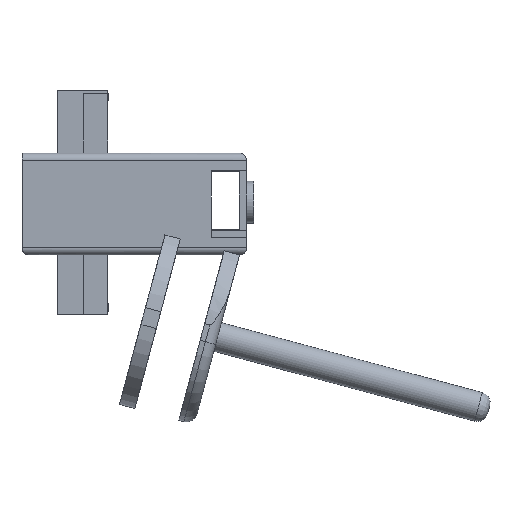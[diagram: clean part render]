
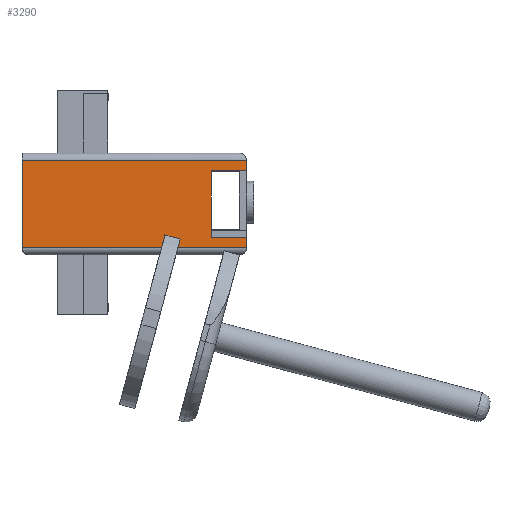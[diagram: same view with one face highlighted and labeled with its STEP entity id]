
A CAD part, left-side view. The second image highlights one B-rep face of the part: STEP entity #3290.
In plain terms, the highlighted planar face has unit normal (-1, 0, 0).
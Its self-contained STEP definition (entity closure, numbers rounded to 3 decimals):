
#325 = PLANE('',#326);
#326 = AXIS2_PLACEMENT_3D('',#327,#328,#329);
#327 = CARTESIAN_POINT('',(-44.284,10.,22.71));
#328 = DIRECTION('',(0.,0.,1.));
#329 = DIRECTION('',(1.,0.,-0.));
#695 = PLANE('',#696);
#696 = AXIS2_PLACEMENT_3D('',#697,#698,#699);
#697 = CARTESIAN_POINT('',(0.,0.,0.));
#698 = DIRECTION('',(0.,1.,0.));
#699 = DIRECTION('',(0.,-0.,1.));
#1296 = PLANE('',#1297);
#1297 = AXIS2_PLACEMENT_3D('',#1298,#1299,#1300);
#1298 = CARTESIAN_POINT('',(-44.284,10.,3.71));
#1299 = DIRECTION('',(0.,0.,-1.));
#1300 = DIRECTION('',(-1.,0.,0.));
#1344 = VERTEX_POINT('',#1345);
#1345 = CARTESIAN_POINT('',(-44.284,10.,3.71));
#1359 = PLANE('',#1360);
#1360 = AXIS2_PLACEMENT_3D('',#1361,#1362,#1363);
#1361 = CARTESIAN_POINT('',(0.,10.,0.));
#1362 = DIRECTION('',(0.,-1.,0.));
#1363 = DIRECTION('',(0.,0.,-1.));
#1371 = EDGE_CURVE('',#1344,#1372,#1374,.T.);
#1372 = VERTEX_POINT('',#1373);
#1373 = CARTESIAN_POINT('',(-44.284,0.,3.71));
#1374 = SURFACE_CURVE('',#1375,(#1379,#1386),.PCURVE_S1.);
#1375 = LINE('',#1376,#1377);
#1376 = CARTESIAN_POINT('',(-44.284,10.,3.71));
#1377 = VECTOR('',#1378,1.);
#1378 = DIRECTION('',(0.,-1.,0.));
#1379 = PCURVE('',#1296,#1380);
#1380 = DEFINITIONAL_REPRESENTATION('',(#1381),#1385);
#1381 = LINE('',#1382,#1383);
#1382 = CARTESIAN_POINT('',(0.,0.));
#1383 = VECTOR('',#1384,1.);
#1384 = DIRECTION('',(0.,-1.));
#1385 = ( GEOMETRIC_REPRESENTATION_CONTEXT(2) 
PARAMETRIC_REPRESENTATION_CONTEXT() REPRESENTATION_CONTEXT('2D SPACE',''
  ) );
#1386 = PCURVE('',#1387,#1392);
#1387 = PLANE('',#1388);
#1388 = AXIS2_PLACEMENT_3D('',#1389,#1390,#1391);
#1389 = CARTESIAN_POINT('',(-44.284,64.,-1.29));
#1390 = DIRECTION('',(1.,0.,0.));
#1391 = DIRECTION('',(0.,0.,-1.));
#1392 = DEFINITIONAL_REPRESENTATION('',(#1393),#1397);
#1393 = LINE('',#1394,#1395);
#1394 = CARTESIAN_POINT('',(-5.,-54.));
#1395 = VECTOR('',#1396,1.);
#1396 = DIRECTION('',(0.,-1.));
#1397 = ( GEOMETRIC_REPRESENTATION_CONTEXT(2) 
PARAMETRIC_REPRESENTATION_CONTEXT() REPRESENTATION_CONTEXT('2D SPACE',''
  ) );
#2461 = PLANE('',#2462);
#2462 = AXIS2_PLACEMENT_3D('',#2463,#2464,#2465);
#2463 = CARTESIAN_POINT('',(0.,64.,0.));
#2464 = DIRECTION('',(0.,1.,0.));
#2465 = DIRECTION('',(0.,-0.,1.));
#2487 = CYLINDRICAL_SURFACE('',#2488,2.);
#2488 = AXIS2_PLACEMENT_3D('',#2489,#2490,#2491);
#2489 = CARTESIAN_POINT('',(-42.284,0.,25.71));
#2490 = DIRECTION('',(0.,-1.,0.));
#2491 = DIRECTION('',(0.,0.,-1.));
#3290 = ADVANCED_FACE('',(#3291),#1387,.F.);
#3291 = FACE_BOUND('',#3292,.T.);
#3292 = EDGE_LOOP('',(#3293,#3318,#3346,#3367,#3368,#3391,#3414,#3437));
#3293 = ORIENTED_EDGE('',*,*,#3294,.F.);
#3294 = EDGE_CURVE('',#3295,#3297,#3299,.T.);
#3295 = VERTEX_POINT('',#3296);
#3296 = CARTESIAN_POINT('',(-44.284,64.,0.71));
#3297 = VERTEX_POINT('',#3298);
#3298 = CARTESIAN_POINT('',(-44.284,64.,25.71));
#3299 = SURFACE_CURVE('',#3300,(#3304,#3311),.PCURVE_S1.);
#3300 = LINE('',#3301,#3302);
#3301 = CARTESIAN_POINT('',(-44.284,64.,-1.29));
#3302 = VECTOR('',#3303,1.);
#3303 = DIRECTION('',(0.,0.,1.));
#3304 = PCURVE('',#1387,#3305);
#3305 = DEFINITIONAL_REPRESENTATION('',(#3306),#3310);
#3306 = LINE('',#3307,#3308);
#3307 = CARTESIAN_POINT('',(0.,0.));
#3308 = VECTOR('',#3309,1.);
#3309 = DIRECTION('',(-1.,0.));
#3310 = ( GEOMETRIC_REPRESENTATION_CONTEXT(2) 
PARAMETRIC_REPRESENTATION_CONTEXT() REPRESENTATION_CONTEXT('2D SPACE',''
  ) );
#3311 = PCURVE('',#2461,#3312);
#3312 = DEFINITIONAL_REPRESENTATION('',(#3313),#3317);
#3313 = LINE('',#3314,#3315);
#3314 = CARTESIAN_POINT('',(-1.29,-44.284));
#3315 = VECTOR('',#3316,1.);
#3316 = DIRECTION('',(1.,0.));
#3317 = ( GEOMETRIC_REPRESENTATION_CONTEXT(2) 
PARAMETRIC_REPRESENTATION_CONTEXT() REPRESENTATION_CONTEXT('2D SPACE',''
  ) );
#3318 = ORIENTED_EDGE('',*,*,#3319,.T.);
#3319 = EDGE_CURVE('',#3295,#3320,#3322,.T.);
#3320 = VERTEX_POINT('',#3321);
#3321 = CARTESIAN_POINT('',(-44.284,0.,0.71));
#3322 = SURFACE_CURVE('',#3323,(#3327,#3334),.PCURVE_S1.);
#3323 = LINE('',#3324,#3325);
#3324 = CARTESIAN_POINT('',(-44.284,64.,0.71));
#3325 = VECTOR('',#3326,1.);
#3326 = DIRECTION('',(0.,-1.,0.));
#3327 = PCURVE('',#1387,#3328);
#3328 = DEFINITIONAL_REPRESENTATION('',(#3329),#3333);
#3329 = LINE('',#3330,#3331);
#3330 = CARTESIAN_POINT('',(-2.,0.));
#3331 = VECTOR('',#3332,1.);
#3332 = DIRECTION('',(0.,-1.));
#3333 = ( GEOMETRIC_REPRESENTATION_CONTEXT(2) 
PARAMETRIC_REPRESENTATION_CONTEXT() REPRESENTATION_CONTEXT('2D SPACE',''
  ) );
#3334 = PCURVE('',#3335,#3340);
#3335 = CYLINDRICAL_SURFACE('',#3336,2.);
#3336 = AXIS2_PLACEMENT_3D('',#3337,#3338,#3339);
#3337 = CARTESIAN_POINT('',(-42.284,64.,0.71));
#3338 = DIRECTION('',(0.,-1.,0.));
#3339 = DIRECTION('',(0.,0.,-1.));
#3340 = DEFINITIONAL_REPRESENTATION('',(#3341),#3345);
#3341 = LINE('',#3342,#3343);
#3342 = CARTESIAN_POINT('',(4.712,0.));
#3343 = VECTOR('',#3344,1.);
#3344 = DIRECTION('',(0.,1.));
#3345 = ( GEOMETRIC_REPRESENTATION_CONTEXT(2) 
PARAMETRIC_REPRESENTATION_CONTEXT() REPRESENTATION_CONTEXT('2D SPACE',''
  ) );
#3346 = ORIENTED_EDGE('',*,*,#3347,.T.);
#3347 = EDGE_CURVE('',#3320,#1372,#3348,.T.);
#3348 = SURFACE_CURVE('',#3349,(#3353,#3360),.PCURVE_S1.);
#3349 = LINE('',#3350,#3351);
#3350 = CARTESIAN_POINT('',(-44.284,0.,-1.29));
#3351 = VECTOR('',#3352,1.);
#3352 = DIRECTION('',(0.,0.,1.));
#3353 = PCURVE('',#1387,#3354);
#3354 = DEFINITIONAL_REPRESENTATION('',(#3355),#3359);
#3355 = LINE('',#3356,#3357);
#3356 = CARTESIAN_POINT('',(0.,-64.));
#3357 = VECTOR('',#3358,1.);
#3358 = DIRECTION('',(-1.,0.));
#3359 = ( GEOMETRIC_REPRESENTATION_CONTEXT(2) 
PARAMETRIC_REPRESENTATION_CONTEXT() REPRESENTATION_CONTEXT('2D SPACE',''
  ) );
#3360 = PCURVE('',#695,#3361);
#3361 = DEFINITIONAL_REPRESENTATION('',(#3362),#3366);
#3362 = LINE('',#3363,#3364);
#3363 = CARTESIAN_POINT('',(-1.29,-44.284));
#3364 = VECTOR('',#3365,1.);
#3365 = DIRECTION('',(1.,0.));
#3366 = ( GEOMETRIC_REPRESENTATION_CONTEXT(2) 
PARAMETRIC_REPRESENTATION_CONTEXT() REPRESENTATION_CONTEXT('2D SPACE',''
  ) );
#3367 = ORIENTED_EDGE('',*,*,#1371,.F.);
#3368 = ORIENTED_EDGE('',*,*,#3369,.F.);
#3369 = EDGE_CURVE('',#3370,#1344,#3372,.T.);
#3370 = VERTEX_POINT('',#3371);
#3371 = CARTESIAN_POINT('',(-44.284,10.,22.71));
#3372 = SURFACE_CURVE('',#3373,(#3377,#3384),.PCURVE_S1.);
#3373 = LINE('',#3374,#3375);
#3374 = CARTESIAN_POINT('',(-44.284,10.,22.71));
#3375 = VECTOR('',#3376,1.);
#3376 = DIRECTION('',(0.,0.,-1.));
#3377 = PCURVE('',#1387,#3378);
#3378 = DEFINITIONAL_REPRESENTATION('',(#3379),#3383);
#3379 = LINE('',#3380,#3381);
#3380 = CARTESIAN_POINT('',(-24.,-54.));
#3381 = VECTOR('',#3382,1.);
#3382 = DIRECTION('',(1.,0.));
#3383 = ( GEOMETRIC_REPRESENTATION_CONTEXT(2) 
PARAMETRIC_REPRESENTATION_CONTEXT() REPRESENTATION_CONTEXT('2D SPACE',''
  ) );
#3384 = PCURVE('',#1359,#3385);
#3385 = DEFINITIONAL_REPRESENTATION('',(#3386),#3390);
#3386 = LINE('',#3387,#3388);
#3387 = CARTESIAN_POINT('',(-22.71,-44.284));
#3388 = VECTOR('',#3389,1.);
#3389 = DIRECTION('',(1.,0.));
#3390 = ( GEOMETRIC_REPRESENTATION_CONTEXT(2) 
PARAMETRIC_REPRESENTATION_CONTEXT() REPRESENTATION_CONTEXT('2D SPACE',''
  ) );
#3391 = ORIENTED_EDGE('',*,*,#3392,.T.);
#3392 = EDGE_CURVE('',#3370,#3393,#3395,.T.);
#3393 = VERTEX_POINT('',#3394);
#3394 = CARTESIAN_POINT('',(-44.284,0.,22.71));
#3395 = SURFACE_CURVE('',#3396,(#3400,#3407),.PCURVE_S1.);
#3396 = LINE('',#3397,#3398);
#3397 = CARTESIAN_POINT('',(-44.284,10.,22.71));
#3398 = VECTOR('',#3399,1.);
#3399 = DIRECTION('',(0.,-1.,0.));
#3400 = PCURVE('',#1387,#3401);
#3401 = DEFINITIONAL_REPRESENTATION('',(#3402),#3406);
#3402 = LINE('',#3403,#3404);
#3403 = CARTESIAN_POINT('',(-24.,-54.));
#3404 = VECTOR('',#3405,1.);
#3405 = DIRECTION('',(0.,-1.));
#3406 = ( GEOMETRIC_REPRESENTATION_CONTEXT(2) 
PARAMETRIC_REPRESENTATION_CONTEXT() REPRESENTATION_CONTEXT('2D SPACE',''
  ) );
#3407 = PCURVE('',#325,#3408);
#3408 = DEFINITIONAL_REPRESENTATION('',(#3409),#3413);
#3409 = LINE('',#3410,#3411);
#3410 = CARTESIAN_POINT('',(0.,0.));
#3411 = VECTOR('',#3412,1.);
#3412 = DIRECTION('',(0.,-1.));
#3413 = ( GEOMETRIC_REPRESENTATION_CONTEXT(2) 
PARAMETRIC_REPRESENTATION_CONTEXT() REPRESENTATION_CONTEXT('2D SPACE',''
  ) );
#3414 = ORIENTED_EDGE('',*,*,#3415,.T.);
#3415 = EDGE_CURVE('',#3393,#3416,#3418,.T.);
#3416 = VERTEX_POINT('',#3417);
#3417 = CARTESIAN_POINT('',(-44.284,0.,25.71));
#3418 = SURFACE_CURVE('',#3419,(#3423,#3430),.PCURVE_S1.);
#3419 = LINE('',#3420,#3421);
#3420 = CARTESIAN_POINT('',(-44.284,0.,-1.29));
#3421 = VECTOR('',#3422,1.);
#3422 = DIRECTION('',(0.,0.,1.));
#3423 = PCURVE('',#1387,#3424);
#3424 = DEFINITIONAL_REPRESENTATION('',(#3425),#3429);
#3425 = LINE('',#3426,#3427);
#3426 = CARTESIAN_POINT('',(0.,-64.));
#3427 = VECTOR('',#3428,1.);
#3428 = DIRECTION('',(-1.,0.));
#3429 = ( GEOMETRIC_REPRESENTATION_CONTEXT(2) 
PARAMETRIC_REPRESENTATION_CONTEXT() REPRESENTATION_CONTEXT('2D SPACE',''
  ) );
#3430 = PCURVE('',#695,#3431);
#3431 = DEFINITIONAL_REPRESENTATION('',(#3432),#3436);
#3432 = LINE('',#3433,#3434);
#3433 = CARTESIAN_POINT('',(-1.29,-44.284));
#3434 = VECTOR('',#3435,1.);
#3435 = DIRECTION('',(1.,0.));
#3436 = ( GEOMETRIC_REPRESENTATION_CONTEXT(2) 
PARAMETRIC_REPRESENTATION_CONTEXT() REPRESENTATION_CONTEXT('2D SPACE',''
  ) );
#3437 = ORIENTED_EDGE('',*,*,#3438,.F.);
#3438 = EDGE_CURVE('',#3297,#3416,#3439,.T.);
#3439 = SURFACE_CURVE('',#3440,(#3444,#3451),.PCURVE_S1.);
#3440 = LINE('',#3441,#3442);
#3441 = CARTESIAN_POINT('',(-44.284,64.,25.71));
#3442 = VECTOR('',#3443,1.);
#3443 = DIRECTION('',(0.,-1.,0.));
#3444 = PCURVE('',#1387,#3445);
#3445 = DEFINITIONAL_REPRESENTATION('',(#3446),#3450);
#3446 = LINE('',#3447,#3448);
#3447 = CARTESIAN_POINT('',(-27.,0.));
#3448 = VECTOR('',#3449,1.);
#3449 = DIRECTION('',(0.,-1.));
#3450 = ( GEOMETRIC_REPRESENTATION_CONTEXT(2) 
PARAMETRIC_REPRESENTATION_CONTEXT() REPRESENTATION_CONTEXT('2D SPACE',''
  ) );
#3451 = PCURVE('',#2487,#3452);
#3452 = DEFINITIONAL_REPRESENTATION('',(#3453),#3457);
#3453 = LINE('',#3454,#3455);
#3454 = CARTESIAN_POINT('',(4.712,-64.));
#3455 = VECTOR('',#3456,1.);
#3456 = DIRECTION('',(0.,1.));
#3457 = ( GEOMETRIC_REPRESENTATION_CONTEXT(2) 
PARAMETRIC_REPRESENTATION_CONTEXT() REPRESENTATION_CONTEXT('2D SPACE',''
  ) );
